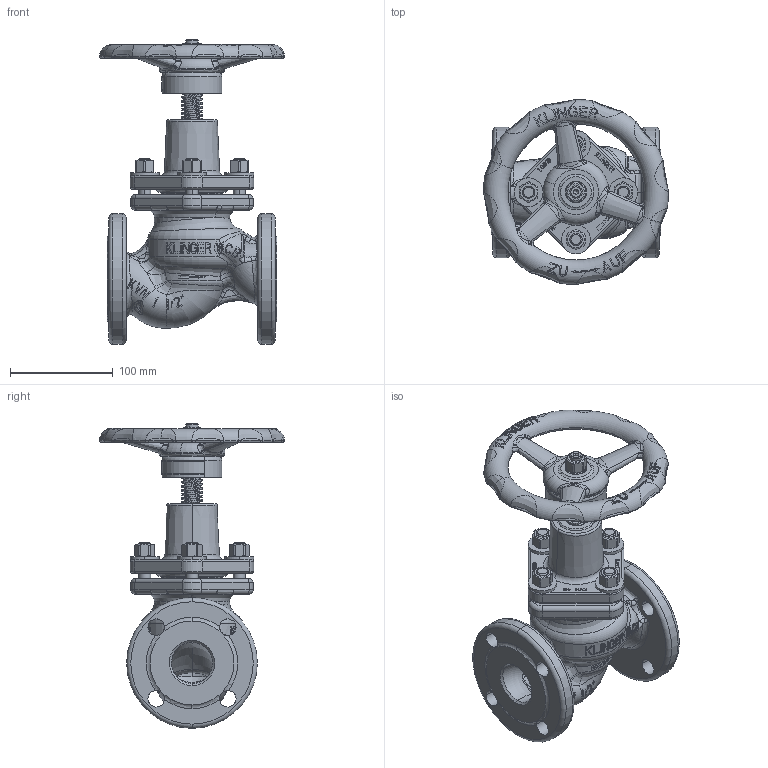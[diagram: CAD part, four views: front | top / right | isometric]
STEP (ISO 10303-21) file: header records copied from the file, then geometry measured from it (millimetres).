
FILE_DESCRIPTION((''),'2;1');
FILE_NAME('KVNFL-32S-----C150PGG_SW0001','2025-04-11T08:30:41',('jeitlers'),('KLINGER'),'CREO PARAMETRIC BY PTC INC, 2023014','CREO PARAMETRIC BY PTC INC, 2023014','');
FILE_SCHEMA(('CONFIG_CONTROL_DESIGN'));
Products named in the file (1): KVNFL-32S-----C150PGG_SW0001
Bounding box: 180 x 180 x 296.1 mm (x, y, z)
Volume: 1271097.7 mm3; surface area: 291587.7 mm2
Topology: 3 solids, 15 shells, 2905 faces, 7663 edges, 4844 vertices
Faces by surface type: plane 1561, bspline 586, cylinder 403, torus 238, cone 113, sphere 4
Entity records: 191063 total; most frequent: CARTESIAN_POINT 125611, ORIENTED_EDGE 15314, DIRECTION 11130, EDGE_CURVE 7657, VERTEX_POINT 4844, AXIS2_PLACEMENT_3D 3930, VECTOR 3270, LINE 3270
